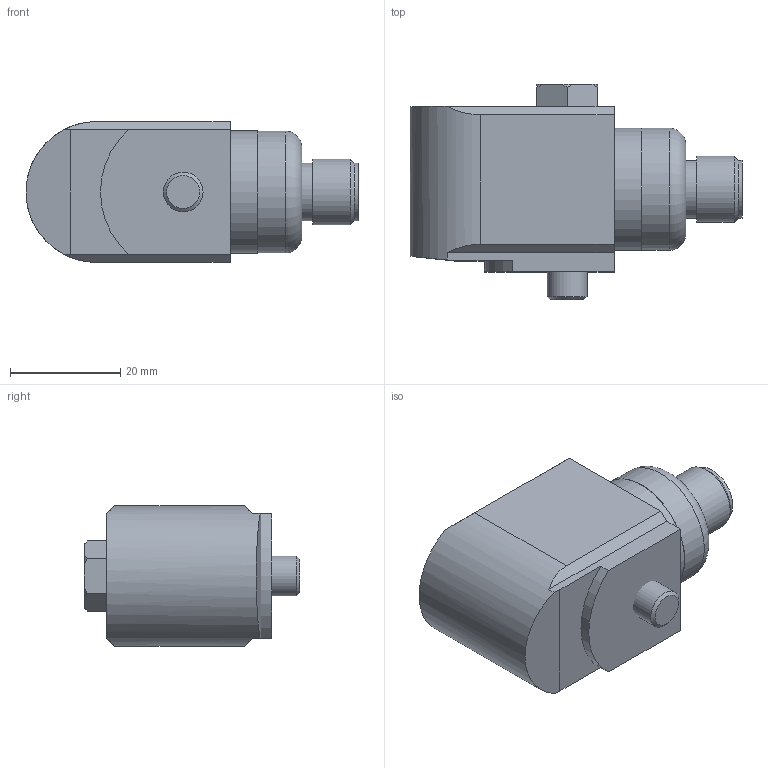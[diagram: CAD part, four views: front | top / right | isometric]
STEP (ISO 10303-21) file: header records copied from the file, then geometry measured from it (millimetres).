
FILE_DESCRIPTION(/* description */ (''),/* implementation_level */ '2;1');
FILE_NAME(/* name */ 'Z:\Engineering\Drawings\3D Library\Assemblies\Website\Premium Side\HS-150 Side M12\HS-150SXXX5406.stp',/* time_stamp */ '2023-03-12T13:12:19+00:00',/* author */ ('Ricardo.Peneda'),/* organization */ (''),/* preprocessor_version */ 'ST-DEVELOPER v18.1',/* originating_system */ 'Autodesk Inventor 2021',/* authorisation */ '');
FILE_SCHEMA (('AUTOMOTIVE_DESIGN { 1 0 10303 214 3 1 1 }'));
Length unit declared in the file: inch
Products named in the file (1): HS-150SXXX5406_Shrinkwrap_1
Bounding box: 60.19 x 39 x 25.5 mm (x, y, z)
Volume: 25802.7 mm3; surface area: 10804.7 mm2
Topology: 4 solids, 4 shells, 70 faces, 174 edges, 126 vertices
Faces by surface type: plane 39, cylinder 20, cone 10, torus 1
Full cylindrical faces by diameter (mm): 4.5 x1, 5.359 x1, 7.2 x1, 9.4 x2, 10 x1, 10.496 x1, 10.5 x1, 12 x1, 13 x1, 14.95 x1, 15.34 x1, 15.35 x1, 18 x1, 19.95 x1, 20 x1, 22.2 x2
Entity records: 2280 total; most frequent: DIRECTION 395, CARTESIAN_POINT 395, ORIENTED_EDGE 348, EDGE_CURVE 174, AXIS2_PLACEMENT_3D 162, VERTEX_POINT 126, EDGE_LOOP 86, CIRCLE 86
